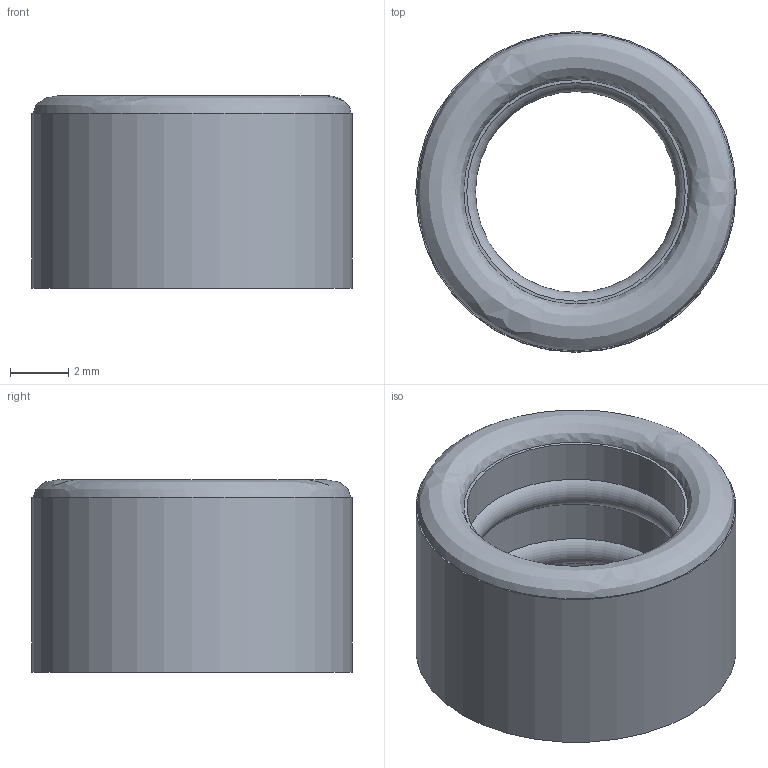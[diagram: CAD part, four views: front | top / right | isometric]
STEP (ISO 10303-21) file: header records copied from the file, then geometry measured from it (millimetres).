
FILE_DESCRIPTION(('FreeCAD Model'),'2;1');
FILE_NAME('Open CASCADE Shape Model','2026-09-29T21:45:28',('Author'),( ''),'Open CASCADE STEP processor 7.8','FreeCAD','Unknown');
FILE_SCHEMA(('AUTOMOTIVE_DESIGN { 1 0 10303 214 1 1 1 1 }'));
Length unit declared in the file: millimetre
Products named in the file (1): cable_seal_b6p9_L6p6
Bounding box: 11 x 11 x 6.6 mm (x, y, z)
Volume: 337.8 mm3; surface area: 476 mm2
Topology: 1 solids, 1 shells, 10 faces, 17 edges, 10 vertices
Faces by surface type: cylinder 4, plane 3, torus 2, bspline 1
Full cylindrical faces by diameter (mm): 7.5 x3, 11 x1
Entity records: 434 total; most frequent: CARTESIAN_POINT 231, DIRECTION 44, ORIENTED_EDGE 34, AXIS2_PLACEMENT_3D 20, EDGE_CURVE 17, FACE_BOUND 13, EDGE_LOOP 13, ADVANCED_FACE 10
